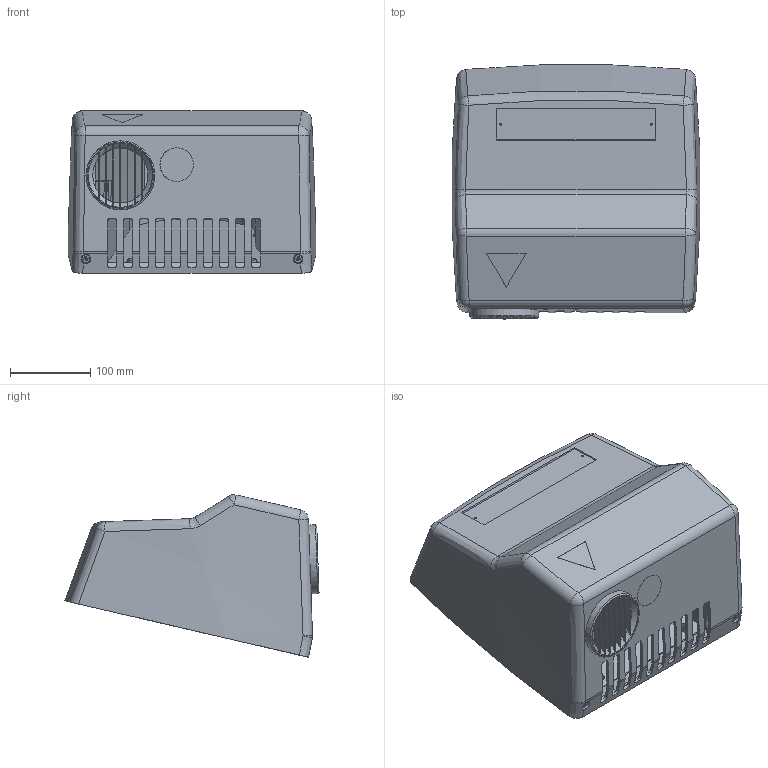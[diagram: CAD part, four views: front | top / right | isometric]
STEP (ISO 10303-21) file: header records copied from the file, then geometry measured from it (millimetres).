
FILE_DESCRIPTION((''),'2;1');
FILE_NAME('M:\Standardvarer\Håndtørrere\261 Dan Dryer - AE\Tegninger\Public 3D files\261 DAN DRYER hand dryer type AE.stp','2010-05-05T14:08:55',('Dan Dryer'),(''),'Autodesk Inventor 2010','Autodesk Inventor 2010','');
FILE_SCHEMA(('AUTOMOTIVE_DESIGN { 1 0 10303 214 1 1 1 1 }'));
Length unit declared in the file: millimetre
Products named in the file (10): 261 Dan Dryer - Type AE - Hvid Alu - 230 Volt 50Hz 2360W; 40025; 45105; 40006; 40065; 40096; El-plint - enkelt; 45002; 46014; 40073
Assembly tree (12 placements, depth 3):
  261 Dan Dryer - Type AE - Hvid Alu - 230 Volt 50Hz 2360W
    40025
    45105
    40006
    40065
    40096
      El-plint - enkelt  x3
    45002
    46014
    40073  x2
Bounding box: 309.63 x 317.32 x 202.95 mm (x, y, z)
Volume: 893376.3 mm3; surface area: 784484.9 mm2
Topology: 11 solids, 12 shells, 793 faces, 2208 edges, 1449 vertices
Faces by surface type: plane 441, cylinder 195, bspline 122, cone 19, torus 8, sphere 8
Full cylindrical faces by diameter (mm): 2.5 x3, 3.5 x3, 4.3 x6, 4.92 x1, 5.5 x6, 6 x2, 7.5 x1, 8 x3, 9.5 x2, 10 x6, 12 x1, 14 x3, 16 x3, 41.8 x1, 86 x1
Entity records: 25030 total; most frequent: CARTESIAN_POINT 7490, ORIENTED_EDGE 3720, DIRECTION 3355, EDGE_CURVE 1860, VERTEX_POINT 1259, AXIS2_PLACEMENT_3D 1129, VECTOR 1097, LINE 1097
